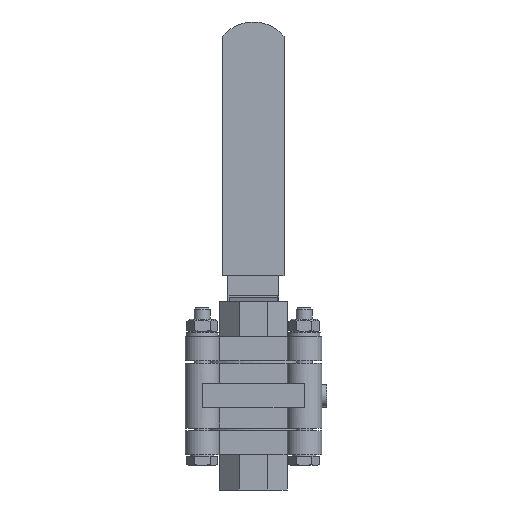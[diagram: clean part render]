
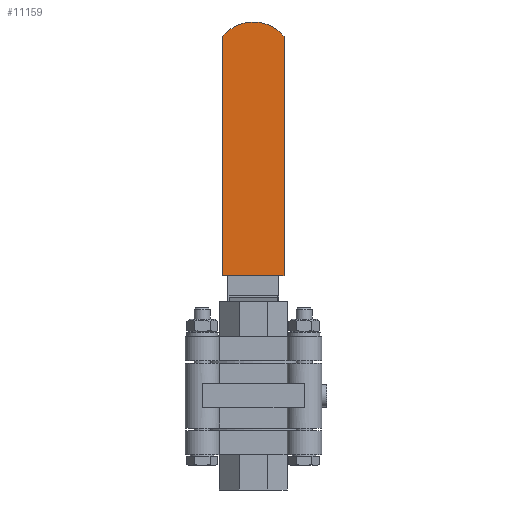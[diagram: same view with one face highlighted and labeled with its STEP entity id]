
A CAD part, front view. The second image highlights one B-rep face of the part: STEP entity #11159.
In plain terms, the highlighted planar face has unit normal (0, -1, 0).
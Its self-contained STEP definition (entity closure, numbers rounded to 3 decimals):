
#526=PLANE('',#11948);
#1166=FACE_OUTER_BOUND('',#1812,.T.);
#1812=EDGE_LOOP('',(#8313,#8314,#8315,#8316));
#2501=CIRCLE('',#11946,15.);
#3150=LINE('',#16879,#4098);
#3152=LINE('',#16883,#4100);
#3153=LINE('',#16884,#4101);
#4098=VECTOR('',#13633,10.);
#4100=VECTOR('',#13637,10.);
#4101=VECTOR('',#13638,10.);
#5075=VERTEX_POINT('',#16872);
#5076=VERTEX_POINT('',#16873);
#5077=VERTEX_POINT('',#16878);
#5078=VERTEX_POINT('',#16882);
#6300=EDGE_CURVE('',#5075,#5076,#2501,.T.);
#6303=EDGE_CURVE('',#5077,#5075,#3150,.T.);
#6305=EDGE_CURVE('',#5078,#5076,#3152,.T.);
#6306=EDGE_CURVE('',#5077,#5078,#3153,.T.);
#8313=ORIENTED_EDGE('',*,*,#6300,.T.);
#8314=ORIENTED_EDGE('',*,*,#6305,.F.);
#8315=ORIENTED_EDGE('',*,*,#6306,.F.);
#8316=ORIENTED_EDGE('',*,*,#6303,.T.);
#11159=ADVANCED_FACE('',(#1166),#526,.T.);
#11946=AXIS2_PLACEMENT_3D('',#16874,#13627,#13628);
#11948=AXIS2_PLACEMENT_3D('',#16881,#13635,#13636);
#13627=DIRECTION('center_axis',(0.,-1.,0.));
#13628=DIRECTION('ref_axis',(-0.767,0.,0.642));
#13633=DIRECTION('',(0.,0.,1.));
#13635=DIRECTION('center_axis',(0.,-1.,0.));
#13636=DIRECTION('ref_axis',(1.,0.,0.));
#13637=DIRECTION('',(0.,0.,1.));
#13638=DIRECTION('',(-1.,0.,0.));
#16872=CARTESIAN_POINT('',(8.035,69.28,134.631));
#16873=CARTESIAN_POINT('',(-14.965,69.28,134.631));
#16874=CARTESIAN_POINT('Origin',(-3.465,69.28,125.));
#16878=CARTESIAN_POINT('',(8.035,69.28,45.));
#16879=CARTESIAN_POINT('',(8.035,69.28,45.));
#16881=CARTESIAN_POINT('Origin',(-14.965,69.28,45.));
#16882=CARTESIAN_POINT('',(-14.965,69.28,45.));
#16883=CARTESIAN_POINT('',(-14.965,69.28,45.));
#16884=CARTESIAN_POINT('',(8.035,69.28,45.));
